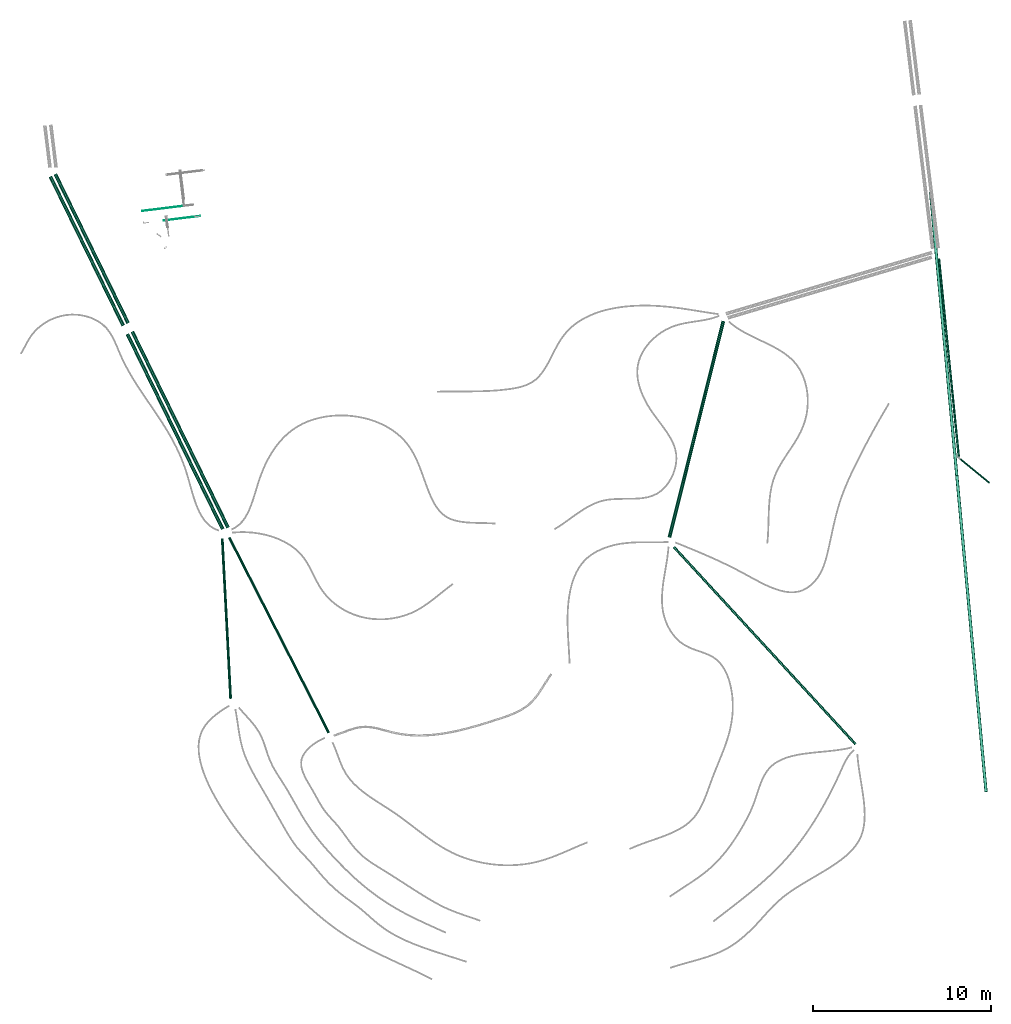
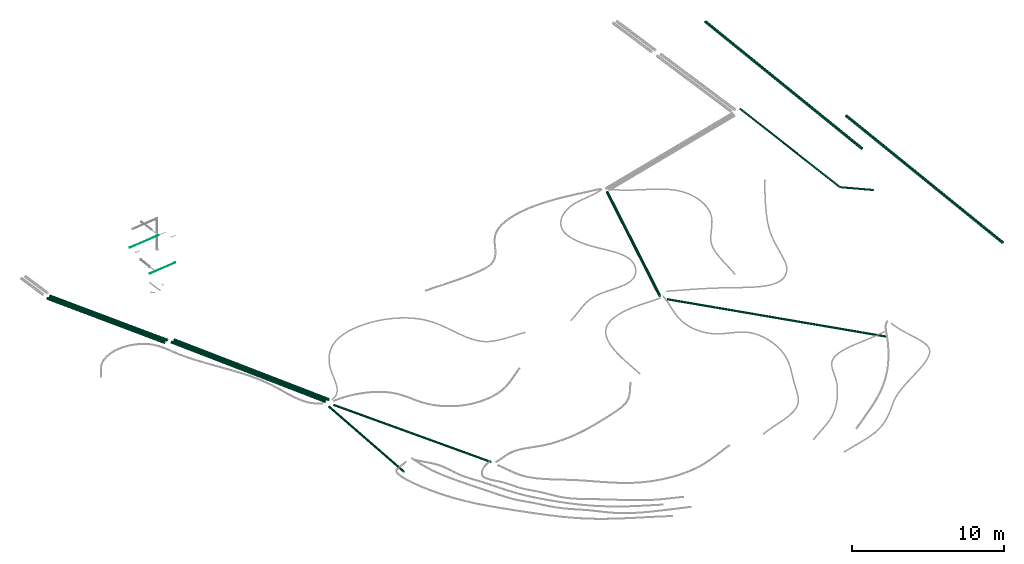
# One storey, part 1 of 8: 12 flow segments, 2 flow terminals.
"""IFC2X3 building model written with IfcOpenShell, lengths in centimetres."""

from ifc_helpers import new_model, entity, si_unit, converted_unit, derived_unit, direction, frame, frame_2d, origin, origin_2d_with_axis, place, context, subcontext, project, spatial, circle, extrude, faceted_brep, source, transform, mapped, material, type_object, type_shapes, element, save


model = new_model("IFC2X3")

# Units and contexts
model_context = context("Model", 3, precision=0.001, world=origin(), true_north=direction((6.12303176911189e-17, 1.0)))
body_context = subcontext(model_context, "Body", "Model", "MODEL_VIEW")
ifc_project = project(units=[si_unit("LENGTHUNIT", "METRE", prefix="CENTI"), si_unit("AREAUNIT", "SQUARE_METRE"), si_unit("VOLUMEUNIT", "CUBIC_METRE"), converted_unit("PLANEANGLEUNIT", "DEGREE", entity("IfcRatioMeasure", 0.0174532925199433), si_unit("PLANEANGLEUNIT", "RADIAN"), dimensions=[0, 0, 0, 0, 0, 0, 0]), si_unit("MASSUNIT", "GRAM", prefix="KILO"), derived_unit("MASSDENSITYUNIT", [(si_unit("MASSUNIT", "GRAM", prefix="KILO"), 1), (si_unit("LENGTHUNIT", "METRE"), -3)]), derived_unit("MOMENTOFINERTIAUNIT", [(si_unit("LENGTHUNIT", "METRE"), 4)]), si_unit("TIMEUNIT", "SECOND"), si_unit("FREQUENCYUNIT", "HERTZ"), si_unit("THERMODYNAMICTEMPERATUREUNIT", "DEGREE_CELSIUS"), derived_unit("THERMALTRANSMITTANCEUNIT", [(si_unit("MASSUNIT", "GRAM", prefix="KILO"), 1), (si_unit("THERMODYNAMICTEMPERATUREUNIT", "KELVIN"), -1), (si_unit("TIMEUNIT", "SECOND"), -3)]), derived_unit("VOLUMETRICFLOWRATEUNIT", [(si_unit("LENGTHUNIT", "METRE"), 3), (si_unit("TIMEUNIT", "SECOND"), -1)]), si_unit("ELECTRICCURRENTUNIT", "AMPERE"), si_unit("ELECTRICVOLTAGEUNIT", "VOLT"), si_unit("POWERUNIT", "WATT"), si_unit("FORCEUNIT", "NEWTON", prefix="KILO"), si_unit("ILLUMINANCEUNIT", "LUX"), si_unit("LUMINOUSFLUXUNIT", "LUMEN"), si_unit("LUMINOUSINTENSITYUNIT", "CANDELA"), derived_unit("USERDEFINED", [(si_unit("MASSUNIT", "GRAM", prefix="KILO"), -1), (si_unit("LENGTHUNIT", "METRE"), -2), (si_unit("TIMEUNIT", "SECOND"), 3), (si_unit("LUMINOUSFLUXUNIT", "LUMEN"), 1)]), derived_unit("LINEARVELOCITYUNIT", [(si_unit("LENGTHUNIT", "METRE"), 1), (si_unit("TIMEUNIT", "SECOND"), -1)]), si_unit("PRESSUREUNIT", "PASCAL"), derived_unit("USERDEFINED", [(si_unit("LENGTHUNIT", "METRE"), -2), (si_unit("MASSUNIT", "GRAM", prefix="KILO"), 1), (si_unit("TIMEUNIT", "SECOND"), -2)]), derived_unit("LINEARFORCEUNIT", [(si_unit("MASSUNIT", "GRAM", prefix="KILO"), 1), (si_unit("LENGTHUNIT", "METRE"), 1), (si_unit("TIMEUNIT", "SECOND"), -2), (si_unit("LENGTHUNIT", "METRE"), -1)]), derived_unit("PLANARFORCEUNIT", [(si_unit("MASSUNIT", "GRAM", prefix="KILO"), 1), (si_unit("LENGTHUNIT", "METRE"), 1), (si_unit("TIMEUNIT", "SECOND"), -2), (si_unit("LENGTHUNIT", "METRE"), -2)])], contexts=[model_context])

# Site, building, storey
site_placement = place(None, origin())
site = spatial("IfcSite", under=ifc_project, at=site_placement, Name="Default", CompositionType="ELEMENT")
building_placement = place(site_placement, origin())
building = spatial("IfcBuilding", under=site, at=building_placement, Name="HIDROSSANITÁRIO", CompositionType="ELEMENT")
storey_placement = place(building_placement, origin())
storey = spatial("IfcBuildingStorey", under=building, at=storey_placement, Name="TERRENO", CompositionType="ELEMENT", Elevation=0.0)

# Flow segments
pipe_segment_type_1 = type_object("IfcPipeSegmentType", Name="Tipos de tubos:Tubo Marrom - Água Fria - Soldável", PredefinedType="NOTDEFINED")
flow_segment_1_placement = place(storey_placement, origin())
element("IfcFlowSegment", 1, at=flow_segment_1_placement, inside=storey, type_object=pipe_segment_type_1, Name="Tipos de tubos:Tubo Marrom - Água Fria - Soldável", ObjectType="Tipos de tubos:Tubo Marrom - Água Fria - Soldável", context=body_context, shape_type="SweptSolid", body=[
    extrude(circle(Radius=1.25, at=origin_2d_with_axis()), frame((-1805.02321765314, 2942.16414893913, 17.3888843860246), z_axis=(0.992505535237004, 0.122199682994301, 0.0), x_axis=(-0.122199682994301, 0.992505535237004, 0.0)), (0.0, 0.0, 1.0), 234.153656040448),
])
flow_segment_2_placement = place(storey_placement, origin())
element("IfcFlowSegment", 2, at=flow_segment_2_placement, inside=storey, type_object=pipe_segment_type_1, Name="Tipos de tubos:Tubo Marrom - Água Fria - Soldável", ObjectType="Tipos de tubos:Tubo Marrom - Água Fria - Soldável", context=body_context, shape_type="SweptSolid", body=[
    extrude(circle(Radius=1.25, at=origin_2d_with_axis()), frame((-1684.36430786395, 2888.75976611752, -200.0), z_axis=(0.992505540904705, 0.122199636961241, 0.0), x_axis=(0.122199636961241, -0.992505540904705, 0.0)), (0.0, 0.0, 1.0), 205.947979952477),
])
pipe_segment_type_2 = type_object("IfcPipeSegmentType", Name="Tipos de tubos:Tubo - Esgoto - Série Normal", PredefinedType="NOTDEFINED")
flow_segment_3_placement = place(storey_placement, origin())
element("IfcFlowSegment", 3, at=flow_segment_3_placement, inside=storey, type_object=pipe_segment_type_2, Name="Tipos de tubos:Tubo - Esgoto - Série Normal", ObjectType="Tipos de tubos:Tubo - Esgoto - Série Normal", context=body_context, shape_type="SweptSolid", body=[
    extrude(circle(Radius=10.0, at=frame_2d((5.23955096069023e-14, 2.10129350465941e-15), x_axis=(1.0, 0.0))), frame((1150.30299617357, 1111.8386534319, -292.954851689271), z_axis=(0.241917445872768, 0.970245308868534, -0.00999950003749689), x_axis=(0.970293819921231, -0.24192954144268, 0.0)), (0.0, 0.0, 1.0), 1250.00576043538),
])
flow_segment_4_placement = place(storey_placement, origin())
element("IfcFlowSegment", 4, at=flow_segment_4_placement, inside=storey, type_object=pipe_segment_type_2, Name="Tipos de tubos:Tubo - Esgoto - Série Normal", ObjectType="Tipos de tubos:Tubo - Esgoto - Série Normal", context=body_context, shape_type="SweptSolid", body=[
    extrude(circle(Radius=7.5, at=origin_2d_with_axis()), frame((-1309.91916814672, 207.400094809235, -291.09189278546), z_axis=(-0.0523359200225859, 0.998579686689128, -0.00997801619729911), x_axis=(0.998629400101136, 0.052338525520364, 0.0)), (0.0, 0.0, 1.0), 900.000000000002),
])
flow_segment_5_placement = place(storey_placement, origin())
element("IfcFlowSegment", 5, at=flow_segment_5_placement, inside=storey, type_object=pipe_segment_type_2, Name="Tipos de tubos:Tubo - Esgoto - Série Normal", ObjectType="Tipos de tubos:Tubo - Esgoto - Série Normal", context=body_context, shape_type="SweptSolid", body=[
    extrude(circle(Radius=7.5, at=frame_2d((3.0726971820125e-15, -6.02989479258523e-17), x_axis=(1.0, 0.0))), frame((-759.618387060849, 16.3234347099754, -291.09189278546), z_axis=(-0.45398641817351, 0.890952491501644, -0.00999950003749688), x_axis=(0.890997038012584, 0.454009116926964, 0.0)), (0.0, 0.0, 1.0), 1230.00007498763),
])
flow_segment_6_placement = place(storey_placement, origin())
element("IfcFlowSegment", 6, at=flow_segment_6_placement, inside=storey, type_object=pipe_segment_type_2, Name="Tipos de tubos:Tubo - Esgoto - Série Normal", ObjectType="Tipos de tubos:Tubo - Esgoto - Série Normal", context=body_context, shape_type="SweptSolid", body=[
    extrude(circle(Radius=10.0, at=origin_2d_with_axis()), frame((-1884.54608994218, 2313.23799927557, -315.36091776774), z_axis=(-0.439110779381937, 0.898377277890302, -0.0099995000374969), x_axis=(0.898422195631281, 0.439132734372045, 0.0)), (0.0, 0.0, 1.0), 930.00001305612),
])
flow_segment_7_placement = place(storey_placement, origin())
element("IfcFlowSegment", 7, at=flow_segment_7_placement, inside=storey, type_object=pipe_segment_type_2, Name="Tipos de tubos:Tubo - Esgoto - Série Normal", ObjectType="Tipos de tubos:Tubo - Esgoto - Série Normal", context=body_context, shape_type="SweptSolid", body=[
    extrude(circle(Radius=7.5, at=frame_2d((1.83410553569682e-14, -1.99136671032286e-16), x_axis=(1.0, 0.0))), frame((2193.53688517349, -47.0559496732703, -282.0), z_axis=(-0.67746587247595, 0.735486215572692, -0.0100009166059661), x_axis=(0.735522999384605, 0.677499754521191, 0.0)), (0.0, 0.0, 1.0), 1502.46453195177),
])
flow_segment_8_placement = place(storey_placement, origin())
element("IfcFlowSegment", 8, at=flow_segment_8_placement, inside=storey, type_object=pipe_segment_type_2, Name="Tipos de tubos:Tubo - Esgoto - Série Normal", ObjectType="Tipos de tubos:Tubo - Esgoto - Série Normal", context=body_context, shape_type="SweptSolid", body=[
    extrude(circle(Radius=10.0, at=origin_2d_with_axis()), frame((-1889.10615675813, 2252.39195567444, -291.09189278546), z_axis=(0.439132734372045, -0.898422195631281, 0.0), x_axis=(0.898422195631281, 0.439132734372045, 0.0)), (0.0, 0.0, 1.0), 1217.25684043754),
])
flow_segment_9_placement = place(storey_placement, origin())
element("IfcFlowSegment", 9, at=flow_segment_9_placement, inside=storey, type_object=pipe_segment_type_2, Name="Tipos de tubos:Tubo - Esgoto - Série Normal", ObjectType="Tipos de tubos:Tubo - Esgoto - Série Normal", context=body_context, shape_type="SweptSolid", body=[
    extrude(circle(Radius=10.0, at=origin_2d_with_axis()), frame((-1861.42005966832, 2265.92442579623, -291.09189278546), z_axis=(0.439132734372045, -0.898422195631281, 0.0), x_axis=(0.898422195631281, 0.439132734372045, 0.0)), (0.0, 0.0, 1.0), 1223.96839925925),
])
flow_segment_10_placement = place(storey_placement, origin())
element("IfcFlowSegment", 10, at=flow_segment_10_placement, inside=storey, type_object=pipe_segment_type_2, Name="Tipos de tubos:Tubo - Esgoto - Série Normal", ObjectType="Tipos de tubos:Tubo - Esgoto - Série Normal", context=body_context, shape_type="SweptSolid", body=[
    extrude(circle(Radius=10.0, at=origin_2d_with_axis()), frame((-1912.232187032, 2299.70552915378, -315.36091776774), z_axis=(-0.439110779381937, 0.898377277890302, -0.0099995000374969), x_axis=(0.898422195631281, 0.439132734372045, 0.0)), (0.0, 0.0, 1.0), 930.00001305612),
])
flow_segment_11_placement = place(storey_placement, origin())
element("IfcFlowSegment", 11, at=flow_segment_11_placement, inside=storey, type_object=pipe_segment_type_2, Name="Tipos de tubos:Tubo - Esgoto - Série Normal", ObjectType="Tipos de tubos:Tubo - Esgoto - Série Normal", context=body_context, shape_type="SweptSolid", body=[
    extrude(circle(Radius=5.0, at=origin_2d_with_axis()), frame((2775.83699579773, 1555.85313493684, -262.234443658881), z_axis=(0.77389201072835, -0.633239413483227, 0.00994992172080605), x_axis=(0.633270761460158, 0.773930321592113, 0.0)), (0.0, 0.0, 1.0), 218.736689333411),
])
flow_segment_12_placement = place(storey_placement, origin())
element("IfcFlowSegment", 12, at=flow_segment_12_placement, inside=storey, type_object=pipe_segment_type_2, Name="Tipos de tubos:Tubo - Esgoto - Série Normal", ObjectType="Tipos de tubos:Tubo - Esgoto - Série Normal", context=body_context, shape_type="SweptSolid", body=[
    extrude(circle(Radius=5.0, at=frame_2d((4.09460961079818e-13, 2.56699000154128e-15), x_axis=(1.0, 0.0))), frame((2773.34464242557, 1560.49964534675, -262.29116789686), z_axis=(-0.0994465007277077, 0.994993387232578, -0.00992737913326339), x_axis=(0.995042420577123, 0.099451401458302, 0.0)), (0.0, 0.0, 1.0), 1118.66152220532),
])

# Flow terminals
ifc_material = material(Name="<Unnamed>")
distribution_element_type = type_object("IfcDistributionElementType", Name="CE HS-SNT CALHA:CE HS-SNT CALHA", material=ifc_material)
shared_shape = source(origin(), body_context, "Body", "Brep", [
    faceted_brep([(1780.21697282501, -1.0, 0.0), (1780.21697282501, 16.0, 0.0), (-1.0, 16.0, 0.0), (-1.0, -1.0, 0.0), (1779.21697282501, 15.0, 0.0), (1779.21697282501, 0.0, 0.0), (0.0, 0.0, 0.0), (0.0, 15.0, 0.0), (1780.21697282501, -1.0, -11.0), (-1.0, -1.0, -11.0), (-1.0, 16.0, -11.0), (1780.21697282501, 16.0, -11.0), (1779.21697282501, 0.0, -10.0), (1779.21697282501, 15.0, -10.0), (0.0, 15.0, -10.0), (0.0, 0.0, -10.0)], [[[0, 1, 2, 3], [4, 5, 6, 7]], [[8, 9, 10, 11]], [[1, 0, 8, 11]], [[2, 1, 11, 10]], [[3, 2, 10, 9]], [[0, 3, 9, 8]], [[12, 13, 14, 15]], [[13, 12, 5, 4]], [[14, 13, 4, 7]], [[15, 14, 7, 6]], [[12, 15, 6, 5]]]),
])
type_shapes(distribution_element_type, [shared_shape])
for number, where, z_axis, x_axis in (
    (13, (2933.27111710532, -313.041971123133, 380.0), (0.0, 0.0, 1.0), (-0.0921802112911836, 0.995742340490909, 0.0)),
    (14, (2785.96720268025, 1278.15360608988, 220.0), (0.0, 0.0, 1.0), (-0.0921802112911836, 0.995742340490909, 0.0)),
):
    element("IfcFlowTerminal", number, at=place(storey_placement, frame(where, z_axis=z_axis, x_axis=x_axis)), inside=storey, type_object=distribution_element_type, material=ifc_material, Name="CE HS-SNT CALHA:CE HS-SNT CALHA", ObjectType="CE HS-SNT CALHA:CE HS-SNT CALHA", context=body_context, shape_type="MappedRepresentation", body=[
        mapped(shared_shape, transform((0.0, 0.0, 0.0), scale=1.0)),
    ])

save(model, "model.ifc")
